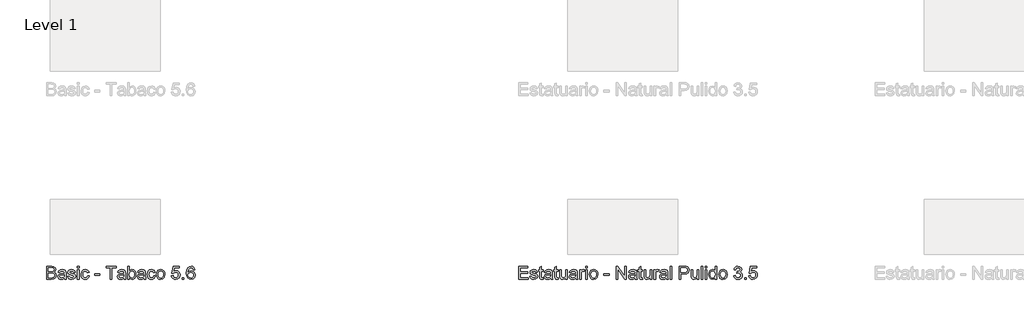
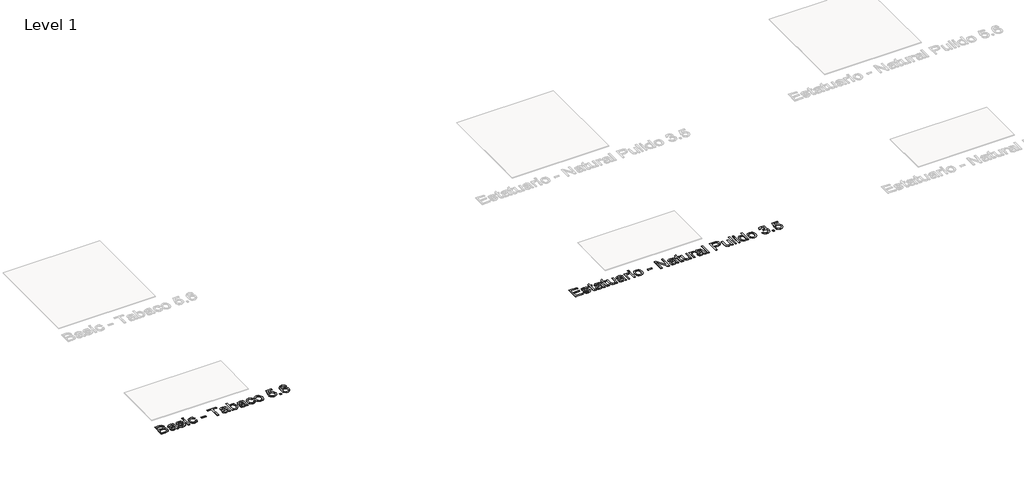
# One storey, part 69 of 80: 2 proxies.
"""IFC4 building model written with IfcOpenShell, lengths in millimetres."""

from ifc_helpers import new_model, si_unit, origin, origin_with_axes, place, context, project, spatial, polyline, outline, extrude, element, save

model = new_model("IFC4")

# Units and contexts
model_context = context("Model", 3, world=origin())
ifc_project = project(units=[si_unit("LENGTHUNIT", "METRE", prefix="MILLI")], contexts=[model_context])

# Site, building, storey
site = spatial("IfcSite", under=ifc_project)
building = spatial("IfcBuilding", under=site)
storey = spatial("IfcBuildingStorey", under=building, Name="Level 1", Elevation=0.0)

# Proxies
placement = place(None, origin())
element("IfcBuildingElementProxy", 1, Name="24\" Arial", ObjectType="24\" Arial", at=placement, inside=storey, context=model_context, shape_type="SweptSolid", body=[
    extrude(outline(polyline([(4590.1546613, 15588.6835141), (4590.1546613, 15706.8373603), (4675.0777383, 15706.8373603), (4675.0777383, 15692.0681295), (4604.9238921, 15692.0681295), (4604.9238921, 15656.9912064), (4671.3854306, 15656.9912064), (4671.3854306, 15642.2219757), (4604.9238921, 15642.2219757), (4604.9238921, 15603.4527449), (4676.9238921, 15603.4527449), (4676.9238921, 15588.6835141), (4590.1546613, 15588.6835141)])), origin_with_axes(), (0.0, 0.0, 1.0), 2.0),
    extrude(outline(polyline([(4691.6931229, 15614.529668), (4706.4623536, 15616.3758218), (4713.2988921, 15605.4142834), (4728.9623536, 15601.6065911), (4744.0200459, 15605.0969757), (4748.9238921, 15613.2892834), (4743.9911998, 15619.9238987), (4728.7892767, 15624.1354372), (4706.5488921, 15631.3613987), (4696.8421613, 15639.7988987), (4693.5392767, 15651.7123603), (4696.1931229, 15662.717168), (4703.4335075, 15671.1258218), (4712.8229306, 15675.4960141), (4725.5296613, 15677.2988987), (4743.5008152, 15674.3998603), (4754.9238921, 15666.5537064), (4760.0008152, 15653.2988987), (4745.2315844, 15651.4527449), (4739.6786998, 15659.6017834), (4726.6835075, 15662.529668), (4712.5488921, 15659.7315911), (4708.3085075, 15653.2123603), (4710.0681229, 15648.9142834), (4715.5777383, 15645.654668), (4728.2988921, 15642.5104372), (4749.9767767, 15635.5585141), (4760.0440844, 15627.6835141), (4763.6931229, 15614.8469757), (4759.409469, 15600.7123603), (4747.0488921, 15590.4575526), (4728.7604306, 15586.8373603), (4713.8686036, 15588.5825526), (4703.0008152, 15593.8181295), (4695.7460075, 15602.4863987), (4691.6931229, 15614.529668)])), origin_with_axes(), (0.0, 0.0, 1.0), 2.0),
    extrude(outline(polyline([(4811.6931229, 15601.0008218), (4813.5392767, 15588.2508218), (4802.4911998, 15586.8373603), (4790.1161998, 15589.2892834), (4783.9431229, 15595.7219757), (4782.1546613, 15612.4815911), (4782.1546613, 15660.6835141), (4771.0777383, 15660.6835141), (4771.0777383, 15675.4527449), (4782.1546613, 15675.4527449), (4782.1546613, 15696.5392834), (4796.9238921, 15705.2219757), (4796.9238921, 15675.4527449), (4811.6931229, 15675.4527449), (4811.6931229, 15660.6835141), (4796.9238921, 15660.6835141), (4796.9238921, 15612.9142834), (4797.7027383, 15605.2988987), (4800.2267767, 15602.6017834), (4805.2604306, 15601.6065911), (4811.6931229, 15601.0008218)])), origin_with_axes(), (0.0, 0.0, 1.0), 2.0),
    extrude(outline(polyline([(4881.846969, 15599.7604372), (4867.5248536, 15589.7508218), (4851.7027383, 15586.8373603), (4839.3601902, 15588.5897641), (4830.2556229, 15593.8469757), (4824.6414402, 15601.8301487), (4822.7700459, 15611.7604372), (4825.596969, 15623.4431295), (4833.0248536, 15631.9238987), (4843.3661998, 15636.7700526), (4856.1450459, 15638.9912064), (4881.7604306, 15644.0681295), (4881.846969, 15647.3565911), (4877.7796613, 15658.2604372), (4861.4527383, 15662.529668), (4846.5104306, 15659.6883218), (4839.3854306, 15649.6065911), (4824.6161998, 15651.4527449), (4831.0056229, 15665.8758218), (4843.8710075, 15674.3277449), (4863.3565844, 15677.2988987), (4881.2556229, 15674.6738987), (4891.3661998, 15668.0825526), (4895.8950459, 15658.0585141), (4896.6161998, 15645.1354372), (4896.6161998, 15626.7604372), (4897.3661998, 15601.1017834), (4900.3085075, 15588.6835141), (4885.5392767, 15588.6835141), (4881.846969, 15599.7604372)]), holes=[polyline([(4881.846969, 15629.2988987), (4858.0200459, 15624.7700526), (4845.3133152, 15622.3758218), (4839.5585075, 15618.4815911), (4837.5392767, 15612.7988987), (4841.9383152, 15604.8085141), (4854.846969, 15601.6065911), (4869.7892767, 15605.1402449), (4879.4238921, 15613.6931295), (4881.7604306, 15625.1162064), (4881.846969, 15629.2988987)])]), origin_with_axes(), (0.0, 0.0, 1.0), 2.0),
    extrude(outline(polyline([(4948.3085075, 15601.0008218), (4950.1546613, 15588.2508218), (4939.1065844, 15586.8373603), (4926.7315844, 15589.2892834), (4920.5585075, 15595.7219757), (4918.7700459, 15612.4815911), (4918.7700459, 15660.6835141), (4907.6931229, 15660.6835141), (4907.6931229, 15675.4527449), (4918.7700459, 15675.4527449), (4918.7700459, 15696.5392834), (4933.5392767, 15705.2219757), (4933.5392767, 15675.4527449), (4948.3085075, 15675.4527449), (4948.3085075, 15660.6835141), (4933.5392767, 15660.6835141), (4933.5392767, 15612.9142834), (4934.3181229, 15605.2988987), (4936.8421613, 15602.6017834), (4941.8758152, 15601.6065911), (4948.3085075, 15601.0008218)])), origin_with_axes(), (0.0, 0.0, 1.0), 2.0),
    extrude(outline(polyline([(5018.4623536, 15588.6835141), (5018.4623536, 15603.5969757), (5006.8950459, 15591.0272641), (4991.8085075, 15586.8373603), (4977.9190844, 15589.779668), (4968.3421613, 15597.1642834), (4963.9431229, 15608.0392834), (4963.0777383, 15621.7700526), (4963.0777383, 15675.4527449), (4977.846969, 15675.4527449), (4977.846969, 15628.7219757), (4978.7411998, 15613.6642834), (4984.5825459, 15604.8229372), (4995.5873536, 15601.6065911), (5007.9190844, 15604.8950526), (5016.0681229, 15613.8517834), (5018.4623536, 15630.3085141), (5018.4623536, 15675.4527449), (5033.2315844, 15675.4527449), (5033.2315844, 15588.6835141), (5018.4623536, 15588.6835141)])), origin_with_axes(), (0.0, 0.0, 1.0), 2.0),
    extrude(outline(polyline([(5108.9238921, 15599.7604372), (5094.6017767, 15589.7508218), (5078.7796613, 15586.8373603), (5066.4371133, 15588.5897641), (5057.3325459, 15593.8469757), (5051.7183633, 15601.8301487), (5049.846969, 15611.7604372), (5052.6738921, 15623.4431295), (5060.1017767, 15631.9238987), (5070.4431229, 15636.7700526), (5083.221969, 15638.9912064), (5108.8373536, 15644.0681295), (5108.9238921, 15647.3565911), (5104.8565844, 15658.2604372), (5088.5296613, 15662.529668), (5073.5873536, 15659.6883218), (5066.4623536, 15649.6065911), (5051.6931229, 15651.4527449), (5058.0825459, 15665.8758218), (5070.9479306, 15674.3277449), (5090.4335075, 15677.2988987), (5108.3325459, 15674.6738987), (5118.4431229, 15668.0825526), (5122.971969, 15658.0585141), (5123.6931229, 15645.1354372), (5123.6931229, 15626.7604372), (5124.4431229, 15601.1017834), (5127.3854306, 15588.6835141), (5112.6161998, 15588.6835141), (5108.9238921, 15599.7604372)]), holes=[polyline([(5108.9238921, 15629.2988987), (5085.096969, 15624.7700526), (5072.3902383, 15622.3758218), (5066.6354306, 15618.4815911), (5064.6161998, 15612.7988987), (5069.0152383, 15604.8085141), (5081.9238921, 15601.6065911), (5096.8661998, 15605.1402449), (5106.5008152, 15613.6931295), (5108.8373536, 15625.1162064), (5108.9238921, 15629.2988987)])]), origin_with_axes(), (0.0, 0.0, 1.0), 2.0),
    extrude(outline(polyline([(5144.0008152, 15588.6835141), (5144.0008152, 15675.4527449), (5156.9238921, 15675.4527449), (5156.9238921, 15662.6162064), (5166.096969, 15674.4431295), (5175.3277383, 15677.2988987), (5190.1546613, 15672.7412064), (5185.221969, 15659.5008218), (5174.8373536, 15662.529668), (5166.4863921, 15659.6162064), (5161.1642767, 15651.5392834), (5158.7700459, 15634.2892834), (5158.7700459, 15588.6835141), (5144.0008152, 15588.6835141)])), origin_with_axes(), (0.0, 0.0, 1.0), 2.0),
    extrude(outline(polyline([(5199.3854306, 15692.0681295), (5199.3854306, 15706.8373603), (5214.1546613, 15706.8373603), (5214.1546613, 15692.0681295), (5199.3854306, 15692.0681295)])), origin_with_axes(), (0.0, 0.0, 1.0), 2.0),
    extrude(outline(polyline([(5199.3854306, 15588.6835141), (5199.3854306, 15675.4527449), (5214.1546613, 15675.4527449), (5214.1546613, 15588.6835141), (5199.3854306, 15588.6835141)])), origin_with_axes(), (0.0, 0.0, 1.0), 2.0),
    extrude(outline(polyline([(5232.6161998, 15632.0681295), (5235.8109113, 15652.9888026), (5245.3950459, 15667.6931295), (5257.2363921, 15674.8974564), (5271.4142767, 15677.2988987), (5286.9299017, 15674.3746199), (5299.3229306, 15665.6017834), (5307.4467286, 15651.6726968), (5310.1546613, 15633.279668), (5305.3661998, 15607.0008218), (5291.4190844, 15592.1306295), (5271.4142767, 15586.8373603), (5255.7111517, 15589.7508218), (5243.3325459, 15598.4912064), (5235.2952863, 15612.7123603), (5232.6161998, 15632.0681295)]), holes=[polyline([(5247.3854306, 15632.0969757), (5249.0945652, 15618.7303891), (5254.221969, 15609.2075526), (5261.9383152, 15603.5068314), (5271.4142767, 15601.6065911), (5280.846969, 15603.5176487), (5288.5488921, 15609.2508218), (5293.6762959, 15618.8998603), (5295.3854306, 15632.5585141), (5293.6654786, 15645.5356776), (5288.5056229, 15654.9287064), (5280.7928825, 15660.6294276), (5271.4142767, 15662.529668), (5261.9383152, 15660.6366391), (5254.221969, 15654.9575526), (5249.0945652, 15645.4563507), (5247.3854306, 15632.0969757)])]), origin_with_axes(), (0.0, 0.0, 1.0), 2.0),
    extrude(outline(polyline([(5365.5392767, 15623.7604372), (5365.5392767, 15638.529668), (5411.6931229, 15638.529668), (5411.6931229, 15623.7604372), (5365.5392767, 15623.7604372)])), origin_with_axes(), (0.0, 0.0, 1.0), 2.0),
    extrude(outline(polyline([(5476.3085075, 15588.6835141), (5476.3085075, 15706.8373603), (5492.1161998, 15706.8373603), (5553.846969, 15613.2315911), (5553.846969, 15706.8373603), (5568.6161998, 15706.8373603), (5568.6161998, 15588.6835141), (5552.8085075, 15588.6835141), (5491.0777383, 15682.3181295), (5491.0777383, 15588.6835141), (5476.3085075, 15588.6835141)])), origin_with_axes(), (0.0, 0.0, 1.0), 2.0),
    extrude(outline(polyline([(5648.0008152, 15599.7604372), (5633.6786998, 15589.7508218), (5617.8565844, 15586.8373603), (5605.5140363, 15588.5897641), (5596.409469, 15593.8469757), (5590.7952863, 15601.8301487), (5588.9238921, 15611.7604372), (5591.7508152, 15623.4431295), (5599.1786998, 15631.9238987), (5609.5200459, 15636.7700526), (5622.2988921, 15638.9912064), (5647.9142767, 15644.0681295), (5648.0008152, 15647.3565911), (5643.9335075, 15658.2604372), (5627.6065844, 15662.529668), (5612.6642767, 15659.6883218), (5605.5392767, 15649.6065911), (5590.7700459, 15651.4527449), (5597.159469, 15665.8758218), (5610.0248536, 15674.3277449), (5629.5104306, 15677.2988987), (5647.409469, 15674.6738987), (5657.5200459, 15668.0825526), (5662.0488921, 15658.0585141), (5662.7700459, 15645.1354372), (5662.7700459, 15626.7604372), (5663.5200459, 15601.1017834), (5666.4623536, 15588.6835141), (5651.6931229, 15588.6835141), (5648.0008152, 15599.7604372)]), holes=[polyline([(5648.0008152, 15629.2988987), (5624.1738921, 15624.7700526), (5611.4671613, 15622.3758218), (5605.7123536, 15618.4815911), (5603.6931229, 15612.7988987), (5608.0921613, 15604.8085141), (5621.0008152, 15601.6065911), (5635.9431229, 15605.1402449), (5645.5777383, 15613.6931295), (5647.9142767, 15625.1162064), (5648.0008152, 15629.2988987)])]), origin_with_axes(), (0.0, 0.0, 1.0), 2.0),
    extrude(outline(polyline([(5714.4623536, 15601.0008218), (5716.3085075, 15588.2508218), (5705.2604306, 15586.8373603), (5692.8854306, 15589.2892834), (5686.7123536, 15595.7219757), (5684.9238921, 15612.4815911), (5684.9238921, 15660.6835141), (5673.846969, 15660.6835141), (5673.846969, 15675.4527449), (5684.9238921, 15675.4527449), (5684.9238921, 15696.5392834), (5699.6931229, 15705.2219757), (5699.6931229, 15675.4527449), (5714.4623536, 15675.4527449), (5714.4623536, 15660.6835141), (5699.6931229, 15660.6835141), (5699.6931229, 15612.9142834), (5700.471969, 15605.2988987), (5702.9960075, 15602.6017834), (5708.0296613, 15601.6065911), (5714.4623536, 15601.0008218)])), origin_with_axes(), (0.0, 0.0, 1.0), 2.0),
    extrude(outline(polyline([(5784.6161998, 15588.6835141), (5784.6161998, 15603.5969757), (5773.0488921, 15591.0272641), (5757.9623536, 15586.8373603), (5744.0729306, 15589.779668), (5734.4960075, 15597.1642834), (5730.096969, 15608.0392834), (5729.2315844, 15621.7700526), (5729.2315844, 15675.4527449), (5744.0008152, 15675.4527449), (5744.0008152, 15628.7219757), (5744.8950459, 15613.6642834), (5750.7363921, 15604.8229372), (5761.7411998, 15601.6065911), (5774.0729306, 15604.8950526), (5782.221969, 15613.8517834), (5784.6161998, 15630.3085141), (5784.6161998, 15675.4527449), (5799.3854306, 15675.4527449), (5799.3854306, 15588.6835141), (5784.6161998, 15588.6835141)])), origin_with_axes(), (0.0, 0.0, 1.0), 2.0),
    extrude(outline(polyline([(5819.6931229, 15588.6835141), (5819.6931229, 15675.4527449), (5832.6161998, 15675.4527449), (5832.6161998, 15662.6162064), (5841.7892767, 15674.4431295), (5851.0200459, 15677.2988987), (5865.846969, 15672.7412064), (5860.9142767, 15659.5008218), (5850.5296613, 15662.529668), (5842.1786998, 15659.6162064), (5836.8565844, 15651.5392834), (5834.4623536, 15634.2892834), (5834.4623536, 15588.6835141), (5819.6931229, 15588.6835141)])), origin_with_axes(), (0.0, 0.0, 1.0), 2.0),
    extrude(outline(polyline([(5930.4623536, 15599.7604372), (5916.1402383, 15589.7508218), (5900.3181229, 15586.8373603), (5887.9755748, 15588.5897641), (5878.8710075, 15593.8469757), (5873.2568248, 15601.8301487), (5871.3854306, 15611.7604372), (5874.2123536, 15623.4431295), (5881.6402383, 15631.9238987), (5891.9815844, 15636.7700526), (5904.7604306, 15638.9912064), (5930.3758152, 15644.0681295), (5930.4623536, 15647.3565911), (5926.3950459, 15658.2604372), (5910.0681229, 15662.529668), (5895.1258152, 15659.6883218), (5888.0008152, 15649.6065911), (5873.2315844, 15651.4527449), (5879.6210075, 15665.8758218), (5892.4863921, 15674.3277449), (5911.971969, 15677.2988987), (5929.8710075, 15674.6738987), (5939.9815844, 15668.0825526), (5944.5104306, 15658.0585141), (5945.2315844, 15645.1354372), (5945.2315844, 15626.7604372), (5945.9815844, 15601.1017834), (5948.9238921, 15588.6835141), (5934.1546613, 15588.6835141), (5930.4623536, 15599.7604372)]), holes=[polyline([(5930.4623536, 15629.2988987), (5906.6354306, 15624.7700526), (5893.9286998, 15622.3758218), (5888.1738921, 15618.4815911), (5886.1546613, 15612.7988987), (5890.5536998, 15604.8085141), (5903.4623536, 15601.6065911), (5918.4046613, 15605.1402449), (5928.0392767, 15613.6931295), (5930.3758152, 15625.1162064), (5930.4623536, 15629.2988987)])]), origin_with_axes(), (0.0, 0.0, 1.0), 2.0),
    extrude(outline(polyline([(5965.5392767, 15588.6835141), (5965.5392767, 15706.8373603), (5980.3085075, 15706.8373603), (5980.3085075, 15588.6835141), (5965.5392767, 15588.6835141)])), origin_with_axes(), (0.0, 0.0, 1.0), 2.0),
    extrude(outline(polyline([(6050.4623536, 15588.6835141), (6050.4623536, 15706.8373603), (6094.2508152, 15706.8373603), (6111.9046613, 15705.7123603), (6126.2556229, 15700.1883218), (6135.5585075, 15688.7652449), (6139.0777383, 15672.654668), (6136.7015363, 15658.7291872), (6129.5729306, 15647.1258218), (6116.2424017, 15639.2940911), (6095.2604306, 15636.6835141), (6065.2315844, 15636.6835141), (6065.2315844, 15588.6835141), (6050.4623536, 15588.6835141)]), holes=[polyline([(6065.2315844, 15651.4527449), (6096.1258152, 15651.4527449), (6109.221969, 15652.8085141), (6117.8758152, 15656.8758218), (6122.7003344, 15663.4022641), (6124.3085075, 15672.1354372), (6120.5152383, 15684.3662064), (6110.5488921, 15691.0585141), (6095.7796613, 15692.0681295), (6065.2315844, 15692.0681295), (6065.2315844, 15651.4527449)])]), origin_with_axes(), (0.0, 0.0, 1.0), 2.0),
    extrude(outline(polyline([(6212.9238921, 15588.6835141), (6212.9238921, 15603.5969757), (6201.3565844, 15591.0272641), (6186.2700459, 15586.8373603), (6172.3806229, 15589.779668), (6162.8036998, 15597.1642834), (6158.4046613, 15608.0392834), (6157.5392767, 15621.7700526), (6157.5392767, 15675.4527449), (6172.3085075, 15675.4527449), (6172.3085075, 15628.7219757), (6173.2027383, 15613.6642834), (6179.0440844, 15604.8229372), (6190.0488921, 15601.6065911), (6202.3806229, 15604.8950526), (6210.5296613, 15613.8517834), (6212.9238921, 15630.3085141), (6212.9238921, 15675.4527449), (6227.6931229, 15675.4527449), (6227.6931229, 15588.6835141), (6212.9238921, 15588.6835141)])), origin_with_axes(), (0.0, 0.0, 1.0), 2.0),
    extrude(outline(polyline([(6248.0008152, 15588.6835141), (6248.0008152, 15706.8373603), (6262.7700459, 15706.8373603), (6262.7700459, 15588.6835141), (6248.0008152, 15588.6835141)])), origin_with_axes(), (0.0, 0.0, 1.0), 2.0),
    extrude(outline(polyline([(6284.9238921, 15692.0681295), (6284.9238921, 15706.8373603), (6299.6931229, 15706.8373603), (6299.6931229, 15692.0681295), (6284.9238921, 15692.0681295)])), origin_with_axes(), (0.0, 0.0, 1.0), 2.0),
    extrude(outline(polyline([(6284.9238921, 15588.6835141), (6284.9238921, 15675.4527449), (6299.6931229, 15675.4527449), (6299.6931229, 15588.6835141), (6284.9238921, 15588.6835141)])), origin_with_axes(), (0.0, 0.0, 1.0), 2.0),
    extrude(outline(polyline([(6375.3854306, 15588.6835141), (6375.3854306, 15602.6162064), (6365.6137959, 15590.7820718), (6352.1065844, 15586.8373603), (6333.8181229, 15592.5488987), (6320.8950459, 15608.4863987), (6316.3085075, 15631.9815911), (6320.534469, 15655.4912064), (6325.8133152, 15664.8157257), (6333.1979306, 15671.6738987), (6352.0488921, 15677.2988987), (6365.6642767, 15673.2748603), (6375.3854306, 15662.8181295), (6375.3854306, 15706.8373603), (6390.1546613, 15706.8373603), (6390.1546613, 15588.6835141), (6375.3854306, 15588.6835141)]), holes=[polyline([(6331.0777383, 15632.0392834), (6332.7436036, 15618.6799084), (6337.7411998, 15609.1787064), (6345.003219, 15603.4996199), (6353.4623536, 15601.6065911), (6361.9178825, 15603.4130814), (6368.9960075, 15608.8325526), (6373.7880748, 15617.9659661), (6375.3854306, 15630.9142834), (6373.7592286, 15645.0705334), (6368.8806229, 15654.8854372), (6361.6222094, 15660.6186103), (6352.8565844, 15662.529668), (6344.3109113, 15660.6943314), (6337.3085075, 15655.1883218), (6332.6354306, 15645.7303891), (6331.0777383, 15632.0392834)])]), origin_with_axes(), (0.0, 0.0, 1.0), 2.0),
    extrude(outline(polyline([(6408.6161998, 15632.0681295), (6411.8109113, 15652.9888026), (6421.3950459, 15667.6931295), (6433.2363921, 15674.8974564), (6447.4142767, 15677.2988987), (6462.9299017, 15674.3746199), (6475.3229306, 15665.6017834), (6483.4467286, 15651.6726968), (6486.1546613, 15633.279668), (6481.3661998, 15607.0008218), (6467.4190844, 15592.1306295), (6447.4142767, 15586.8373603), (6431.7111517, 15589.7508218), (6419.3325459, 15598.4912064), (6411.2952863, 15612.7123603), (6408.6161998, 15632.0681295)]), holes=[polyline([(6423.3854306, 15632.0969757), (6425.0945652, 15618.7303891), (6430.221969, 15609.2075526), (6437.9383152, 15603.5068314), (6447.4142767, 15601.6065911), (6456.846969, 15603.5176487), (6464.5488921, 15609.2508218), (6469.6762959, 15618.8998603), (6471.3854306, 15632.5585141), (6469.6654786, 15645.5356776), (6464.5056229, 15654.9287064), (6456.7928825, 15660.6294276), (6447.4142767, 15662.529668), (6437.9383152, 15660.6366391), (6430.221969, 15654.9575526), (6425.0945652, 15645.4563507), (6423.3854306, 15632.0969757)])]), origin_with_axes(), (0.0, 0.0, 1.0), 2.0),
    extrude(outline(polyline([(6545.2315844, 15620.0681295), (6560.0008152, 15621.9142834), (6568.1498536, 15606.3662064), (6583.3950459, 15601.6065911), (6593.5200459, 15603.2436103), (6601.3373536, 15608.154668), (6606.3349498, 15615.4815911), (6608.0008152, 15624.3662064), (6606.3493729, 15632.8001007), (6601.3950459, 15639.6402449), (6593.8950459, 15644.1726968), (6584.6065844, 15645.6835141), (6574.2508152, 15644.0681295), (6575.8950459, 15658.8373603), (6578.2604306, 15658.6642834), (6595.0200459, 15662.904668), (6600.6017767, 15668.2844757), (6602.4623536, 15675.9431295), (6597.0681229, 15687.4960141), (6583.1642767, 15692.0681295), (6569.0873536, 15687.4527449), (6561.846969, 15673.6065911), (6547.0777383, 15675.4527449), (6551.4262959, 15688.7147641), (6559.1642767, 15698.6162064), (6569.7508152, 15704.7820718), (6582.6450459, 15706.8373603), (6600.4575459, 15702.7844757), (6612.9190844, 15691.7075526), (6617.2315844, 15676.8085141), (6613.1354306, 15663.1931295), (6601.0200459, 15653.4142834), (6610.2652383, 15649.6787064), (6617.1161998, 15643.3181295), (6621.3565844, 15634.6787064), (6622.7700459, 15624.1065911), (6619.9431229, 15609.7123603), (6611.4623536, 15597.6835141), (6598.6618729, 15589.5488987), (6582.8758152, 15586.8373603), (6568.596969, 15589.1522641), (6556.971969, 15596.0969757), (6548.8878344, 15606.7195718), (6545.2315844, 15620.0681295)])), origin_with_axes(), (0.0, 0.0, 1.0), 2.0),
    extrude(outline(polyline([(6643.0777383, 15588.6835141), (6643.0777383, 15603.4527449), (6657.846969, 15603.4527449), (6657.846969, 15588.6835141), (6643.0777383, 15588.6835141)])), origin_with_axes(), (0.0, 0.0, 1.0), 2.0),
    extrude(outline(polyline([(6681.846969, 15620.0681295), (6696.6161998, 15621.9142834), (6704.0585075, 15606.6979372), (6719.4911998, 15601.6065911), (6730.0777383, 15603.3770237), (6738.0104306, 15608.6883218), (6742.9647575, 15616.9275045), (6744.6161998, 15627.4815911), (6743.0693248, 15637.4190911), (6738.4286998, 15645.0200526), (6730.6582671, 15649.8445718), (6719.721969, 15651.4527449), (6706.7556229, 15648.8854372), (6698.4623536, 15642.2219757), (6683.6931229, 15644.0681295), (6696.6161998, 15704.9912064), (6753.846969, 15704.9912064), (6753.846969, 15690.2219757), (6708.5585075, 15690.2219757), (6702.2411998, 15657.6835141), (6712.7916806, 15664.0873603), (6723.846969, 15666.2219757), (6737.6462479, 15663.5753411), (6749.1017767, 15655.6354372), (6756.8145171, 15643.5344757), (6759.3854306, 15628.404668), (6757.0705267, 15613.6354372), (6750.1258152, 15601.0008218), (6736.8277383, 15590.3782257), (6719.4335075, 15586.8373603), (6704.9274979, 15589.1126007), (6693.3710075, 15595.9383218), (6685.4491325, 15606.5212545), (6681.846969, 15620.0681295)])), origin_with_axes(), (0.0, 0.0, 1.0), 2.0),
])
element("IfcBuildingElementProxy", 2, Name="24\" Arial", ObjectType="24\" Arial", at=placement, inside=storey, context=model_context, shape_type="SweptSolid", body=[
    extrude(outline(polyline([(300.0008152, 15588.6835141), (300.0008152, 15706.8373603), (345.0873536, 15706.8373603), (367.1690844, 15703.3613987), (380.2075459, 15692.6738987), (384.9238921, 15677.5585141), (380.9575459, 15663.7556295), (368.971969, 15653.2988987), (383.5248536, 15642.279668), (388.6161998, 15623.904668), (385.1402383, 15608.0248603), (376.5296613, 15596.717168), (363.6786998, 15590.717168), (344.7411998, 15588.6835141), (300.0008152, 15588.6835141)]), holes=[polyline([(314.7700459, 15603.4527449), (345.0585075, 15603.4527449), (356.0200459, 15604.029668), (365.2940844, 15607.2460141), (371.4383152, 15613.8085141), (373.846969, 15623.7604372), (371.0200459, 15635.2412064), (361.8613921, 15642.092168), (343.6161998, 15644.0681295), (314.7700459, 15644.0681295), (314.7700459, 15603.4527449)]), polyline([(314.7700459, 15658.8373603), (341.7411998, 15658.8373603), (357.4911998, 15660.1065911), (366.9671613, 15665.5729372), (370.1546613, 15675.1931295), (367.1835075, 15684.8277449), (358.6738921, 15690.5248603), (339.6931229, 15692.0681295), (314.7700459, 15692.0681295), (314.7700459, 15658.8373603)])]), origin_with_axes(), (0.0, 0.0, 1.0), 2.0),
    extrude(outline(polyline([(462.4623536, 15599.7604372), (448.1402383, 15589.7508218), (432.3181229, 15586.8373603), (419.9755748, 15588.5897641), (410.8710075, 15593.8469757), (405.2568248, 15601.8301487), (403.3854306, 15611.7604372), (406.2123536, 15623.4431295), (413.6402383, 15631.9238987), (423.9815844, 15636.7700526), (436.7604306, 15638.9912064), (462.3758152, 15644.0681295), (462.4623536, 15647.3565911), (458.3950459, 15658.2604372), (442.0681229, 15662.529668), (427.1258152, 15659.6883218), (420.0008152, 15649.6065911), (405.2315844, 15651.4527449), (411.6210075, 15665.8758218), (424.4863921, 15674.3277449), (443.971969, 15677.2988987), (461.8710075, 15674.6738987), (471.9815844, 15668.0825526), (476.5104306, 15658.0585141), (477.2315844, 15645.1354372), (477.2315844, 15626.7604372), (477.9815844, 15601.1017834), (480.9238921, 15588.6835141), (466.1546613, 15588.6835141), (462.4623536, 15599.7604372)]), holes=[polyline([(462.4623536, 15629.2988987), (438.6354306, 15624.7700526), (425.9286998, 15622.3758218), (420.1738921, 15618.4815911), (418.1546613, 15612.7988987), (422.5536998, 15604.8085141), (435.4623536, 15601.6065911), (450.4046613, 15605.1402449), (460.0392767, 15613.6931295), (462.3758152, 15625.1162064), (462.4623536, 15629.2988987)])]), origin_with_axes(), (0.0, 0.0, 1.0), 2.0),
    extrude(outline(polyline([(492.0008152, 15614.529668), (506.7700459, 15616.3758218), (513.6065844, 15605.4142834), (529.2700459, 15601.6065911), (544.3277383, 15605.0969757), (549.2315844, 15613.2892834), (544.2988921, 15619.9238987), (529.096969, 15624.1354372), (506.8565844, 15631.3613987), (497.1498536, 15639.7988987), (493.846969, 15651.7123603), (496.5008152, 15662.717168), (503.7411998, 15671.1258218), (513.1306229, 15675.4960141), (525.8373536, 15677.2988987), (543.8085075, 15674.3998603), (555.2315844, 15666.5537064), (560.3085075, 15653.2988987), (545.5392767, 15651.4527449), (539.9863921, 15659.6017834), (526.9911998, 15662.529668), (512.8565844, 15659.7315911), (508.6161998, 15653.2123603), (510.3758152, 15648.9142834), (515.8854306, 15645.654668), (528.6065844, 15642.5104372), (550.284469, 15635.5585141), (560.3517767, 15627.6835141), (564.0008152, 15614.8469757), (559.7171613, 15600.7123603), (547.3565844, 15590.4575526), (529.0681229, 15586.8373603), (514.1762959, 15588.5825526), (503.3085075, 15593.8181295), (496.0536998, 15602.4863987), (492.0008152, 15614.529668)])), origin_with_axes(), (0.0, 0.0, 1.0), 2.0),
    extrude(outline(polyline([(580.6161998, 15588.6835141), (580.6161998, 15675.4527449), (595.3854306, 15675.4527449), (595.3854306, 15588.6835141), (580.6161998, 15588.6835141)])), origin_with_axes(), (0.0, 0.0, 1.0), 2.0),
    extrude(outline(polyline([(580.6161998, 15692.0681295), (580.6161998, 15706.8373603), (595.3854306, 15706.8373603), (595.3854306, 15692.0681295), (580.6161998, 15692.0681295)])), origin_with_axes(), (0.0, 0.0, 1.0), 2.0),
    extrude(outline(polyline([(672.9238921, 15620.0681295), (687.6931229, 15618.2219757), (683.5753344, 15605.0861584), (675.8373536, 15595.1594757), (665.2075459, 15588.9178891), (652.4142767, 15586.8373603), (636.7039402, 15589.7400045), (624.4190844, 15598.4479372), (616.4899979, 15612.5789468), (613.846969, 15631.7508218), (618.3613921, 15656.2844757), (624.0585075, 15665.482793), (632.1210075, 15672.0488987), (652.2123536, 15677.2988987), (664.6919209, 15675.4960141), (674.6690844, 15670.0873603), (681.8265363, 15661.3613987), (685.846969, 15649.6065911), (671.0777383, 15647.7604372), (664.2267767, 15658.8229372), (652.3277383, 15662.529668), (642.7832671, 15660.7051487), (635.2075459, 15655.2315911), (630.2640363, 15645.8133218), (628.6161998, 15632.154668), (630.2279786, 15618.3121199), (635.0633152, 15608.8613987), (642.5020171, 15603.420293), (651.9238921, 15601.6065911), (665.8421613, 15606.1354372), (672.9238921, 15620.0681295)])), origin_with_axes(), (0.0, 0.0, 1.0), 2.0),
    extrude(outline(polyline([(739.3854306, 15623.7604372), (739.3854306, 15638.529668), (785.5392767, 15638.529668), (785.5392767, 15623.7604372), (739.3854306, 15623.7604372)])), origin_with_axes(), (0.0, 0.0, 1.0), 2.0),
    extrude(outline(polyline([(879.6931229, 15588.6835141), (879.6931229, 15692.0681295), (840.9238921, 15692.0681295), (840.9238921, 15706.8373603), (933.2315844, 15706.8373603), (933.2315844, 15692.0681295), (894.4623536, 15692.0681295), (894.4623536, 15588.6835141), (879.6931229, 15588.6835141)])), origin_with_axes(), (0.0, 0.0, 1.0), 2.0),
    extrude(outline(polyline([(1003.3854306, 15599.7604372), (989.0633152, 15589.7508218), (973.2411998, 15586.8373603), (960.8986517, 15588.5897641), (951.7940844, 15593.8469757), (946.1799017, 15601.8301487), (944.3085075, 15611.7604372), (947.1354306, 15623.4431295), (954.5633152, 15631.9238987), (964.9046613, 15636.7700526), (977.6835075, 15638.9912064), (1003.2988921, 15644.0681295), (1003.3854306, 15647.3565911), (999.3181229, 15658.2604372), (982.9911998, 15662.529668), (968.0488921, 15659.6883218), (960.9238921, 15649.6065911), (946.1546613, 15651.4527449), (952.5440844, 15665.8758218), (965.409469, 15674.3277449), (984.8950459, 15677.2988987), (1002.7940844, 15674.6738987), (1012.9046613, 15668.0825526), (1017.4335075, 15658.0585141), (1018.1546613, 15645.1354372), (1018.1546613, 15626.7604372), (1018.9046613, 15601.1017834), (1021.846969, 15588.6835141), (1007.0777383, 15588.6835141), (1003.3854306, 15599.7604372)]), holes=[polyline([(1003.3854306, 15629.2988987), (979.5585075, 15624.7700526), (966.8517767, 15622.3758218), (961.096969, 15618.4815911), (959.0777383, 15612.7988987), (963.4767767, 15604.8085141), (976.3854306, 15601.6065911), (991.3277383, 15605.1402449), (1000.9623536, 15613.6931295), (1003.2988921, 15625.1162064), (1003.3854306, 15629.2988987)])]), origin_with_axes(), (0.0, 0.0, 1.0), 2.0),
    extrude(outline(polyline([(1053.2315844, 15588.6835141), (1038.4623536, 15588.6835141), (1038.4623536, 15706.8373603), (1053.2315844, 15706.8373603), (1053.2315844, 15663.0200526), (1063.5729306, 15673.7291872), (1076.4238921, 15677.2988987), (1091.221969, 15674.0825526), (1102.7027383, 15665.0392834), (1109.7556229, 15650.9767834), (1112.3085075, 15633.3662064), (1109.6654786, 15613.6498603), (1101.7363921, 15598.9815911), (1090.1005748, 15589.873418), (1076.3373536, 15586.8373603), (1063.2051421, 15590.7532257), (1053.2315844, 15602.5008218), (1053.2315844, 15588.6835141)]), holes=[polyline([(1053.2315844, 15632.6738987), (1057.2700459, 15612.0200526), (1065.0080267, 15604.2099564), (1075.0681229, 15601.6065911), (1083.5921613, 15603.5248603), (1090.8758152, 15609.279668), (1095.8734113, 15618.8349564), (1097.5392767, 15632.154668), (1095.9419209, 15645.6690911), (1091.1498536, 15655.1162064), (1084.0933633, 15660.6763026), (1075.7027383, 15662.529668), (1067.1786998, 15660.6113987), (1059.8950459, 15654.8565911), (1054.8974498, 15645.4743795), (1053.2315844, 15632.6738987)])]), origin_with_axes(), (0.0, 0.0, 1.0), 2.0),
    extrude(outline(polyline([(1184.3085075, 15599.7604372), (1169.9863921, 15589.7508218), (1154.1642767, 15586.8373603), (1141.8217286, 15588.5897641), (1132.7171613, 15593.8469757), (1127.1029786, 15601.8301487), (1125.2315844, 15611.7604372), (1128.0585075, 15623.4431295), (1135.4863921, 15631.9238987), (1145.8277383, 15636.7700526), (1158.6065844, 15638.9912064), (1184.221969, 15644.0681295), (1184.3085075, 15647.3565911), (1180.2411998, 15658.2604372), (1163.9142767, 15662.529668), (1148.971969, 15659.6883218), (1141.846969, 15649.6065911), (1127.0777383, 15651.4527449), (1133.4671613, 15665.8758218), (1146.3325459, 15674.3277449), (1165.8181229, 15677.2988987), (1183.7171613, 15674.6738987), (1193.8277383, 15668.0825526), (1198.3565844, 15658.0585141), (1199.0777383, 15645.1354372), (1199.0777383, 15626.7604372), (1199.8277383, 15601.1017834), (1202.7700459, 15588.6835141), (1188.0008152, 15588.6835141), (1184.3085075, 15599.7604372)]), holes=[polyline([(1184.3085075, 15629.2988987), (1160.4815844, 15624.7700526), (1147.7748536, 15622.3758218), (1142.0200459, 15618.4815911), (1140.0008152, 15612.7988987), (1144.3998536, 15604.8085141), (1157.3085075, 15601.6065911), (1172.2508152, 15605.1402449), (1181.8854306, 15613.6931295), (1184.221969, 15625.1162064), (1184.3085075, 15629.2988987)])]), origin_with_axes(), (0.0, 0.0, 1.0), 2.0),
    extrude(outline(polyline([(1274.7700459, 15620.0681295), (1289.5392767, 15618.2219757), (1285.4214883, 15605.0861584), (1277.6835075, 15595.1594757), (1267.0536998, 15588.9178891), (1254.2604306, 15586.8373603), (1238.550094, 15589.7400045), (1226.2652383, 15598.4479372), (1218.3361517, 15612.5789468), (1215.6931229, 15631.7508218), (1220.2075459, 15656.2844757), (1225.9046613, 15665.482793), (1233.9671613, 15672.0488987), (1254.0585075, 15677.2988987), (1266.5380748, 15675.4960141), (1276.5152383, 15670.0873603), (1283.6726902, 15661.3613987), (1287.6931229, 15649.6065911), (1272.9238921, 15647.7604372), (1266.0729306, 15658.8229372), (1254.1738921, 15662.529668), (1244.6294209, 15660.7051487), (1237.0536998, 15655.2315911), (1232.1101902, 15645.8133218), (1230.4623536, 15632.154668), (1232.0741325, 15618.3121199), (1236.909469, 15608.8613987), (1244.3481709, 15603.420293), (1253.7700459, 15601.6065911), (1267.6883152, 15606.1354372), (1274.7700459, 15620.0681295)])), origin_with_axes(), (0.0, 0.0, 1.0), 2.0),
    extrude(outline(polyline([(1298.7700459, 15632.0681295), (1301.9647575, 15652.9888026), (1311.5488921, 15667.6931295), (1323.3902383, 15674.8974564), (1337.5681229, 15677.2988987), (1353.0837479, 15674.3746199), (1365.4767767, 15665.6017834), (1373.6005748, 15651.6726968), (1376.3085075, 15633.279668), (1371.5200459, 15607.0008218), (1357.5729306, 15592.1306295), (1337.5681229, 15586.8373603), (1321.8649979, 15589.7508218), (1309.4863921, 15598.4912064), (1301.4491325, 15612.7123603), (1298.7700459, 15632.0681295)]), holes=[polyline([(1313.5392767, 15632.0969757), (1315.2484113, 15618.7303891), (1320.3758152, 15609.2075526), (1328.0921613, 15603.5068314), (1337.5681229, 15601.6065911), (1347.0008152, 15603.5176487), (1354.7027383, 15609.2508218), (1359.8301421, 15618.8998603), (1361.5392767, 15632.5585141), (1359.8193248, 15645.5356776), (1354.659469, 15654.9287064), (1346.9467286, 15660.6294276), (1337.5681229, 15662.529668), (1328.0921613, 15660.6366391), (1320.3758152, 15654.9575526), (1315.2484113, 15645.4563507), (1313.5392767, 15632.0969757)])]), origin_with_axes(), (0.0, 0.0, 1.0), 2.0),
    extrude(outline(polyline([(1435.3854306, 15620.0681295), (1450.1546613, 15621.9142834), (1457.596969, 15606.6979372), (1473.0296613, 15601.6065911), (1483.6161998, 15603.3770237), (1491.5488921, 15608.6883218), (1496.503219, 15616.9275045), (1498.1546613, 15627.4815911), (1496.6077863, 15637.4190911), (1491.9671613, 15645.0200526), (1484.1967286, 15649.8445718), (1473.2604306, 15651.4527449), (1460.2940844, 15648.8854372), (1452.0008152, 15642.2219757), (1437.2315844, 15644.0681295), (1450.1546613, 15704.9912064), (1507.3854306, 15704.9912064), (1507.3854306, 15690.2219757), (1462.096969, 15690.2219757), (1455.7796613, 15657.6835141), (1466.3301421, 15664.0873603), (1477.3854306, 15666.2219757), (1491.1847094, 15663.5753411), (1502.6402383, 15655.6354372), (1510.3529786, 15643.5344757), (1512.9238921, 15628.404668), (1510.6089883, 15613.6354372), (1503.6642767, 15601.0008218), (1490.3661998, 15590.3782257), (1472.971969, 15586.8373603), (1458.4659594, 15589.1126007), (1446.909469, 15595.9383218), (1438.987594, 15606.5212545), (1435.3854306, 15620.0681295)])), origin_with_axes(), (0.0, 0.0, 1.0), 2.0),
    extrude(outline(polyline([(1533.2315844, 15588.6835141), (1533.2315844, 15603.4527449), (1548.0008152, 15603.4527449), (1548.0008152, 15588.6835141), (1533.2315844, 15588.6835141)])), origin_with_axes(), (0.0, 0.0, 1.0), 2.0),
    extrude(outline(polyline([(1647.6931229, 15675.4527449), (1632.9238921, 15673.6065911), (1627.3277383, 15685.9238987), (1620.628219, 15690.5320718), (1612.5296613, 15692.0681295), (1599.2027383, 15688.4912064), (1589.1210075, 15675.0633218), (1584.9238921, 15648.7412064), (1597.9479306, 15660.5248603), (1614.0873536, 15664.3758218), (1627.7315844, 15661.7436103), (1639.1835075, 15653.8469757), (1646.9503344, 15641.7820718), (1649.5392767, 15626.6450526), (1644.6642767, 15606.2652449), (1631.2508152, 15591.842168), (1611.8950459, 15586.8373603), (1595.1390363, 15590.154668), (1581.7940844, 15600.1065911), (1573.0645171, 15617.6738987), (1570.1546613, 15643.8373603), (1573.3854306, 15673.2532257), (1583.0777383, 15693.3662064), (1596.3109113, 15703.4695718), (1613.4527383, 15706.8373603), (1626.4118729, 15704.7532257), (1636.7892767, 15698.5008218), (1644.0585075, 15688.5705334), (1647.6931229, 15675.4527449)]), holes=[polyline([(1584.9238921, 15626.8758218), (1588.3421613, 15614.0825526), (1597.4286998, 15604.7940911), (1610.7411998, 15601.6065911), (1620.487594, 15603.2580334), (1628.1498536, 15608.2123603), (1633.1149979, 15616.0008218), (1634.7700459, 15626.154668), (1633.1366325, 15635.9010622), (1628.2363921, 15643.3325526), (1620.4443248, 15648.0380814), (1610.1354306, 15649.6065911), (1600.4034594, 15648.0380814), (1592.2652383, 15643.3325526), (1586.7592286, 15636.0813507), (1584.9238921, 15626.8758218)])]), origin_with_axes(), (0.0, 0.0, 1.0), 2.0),
])

save(model, "model.ifc")
